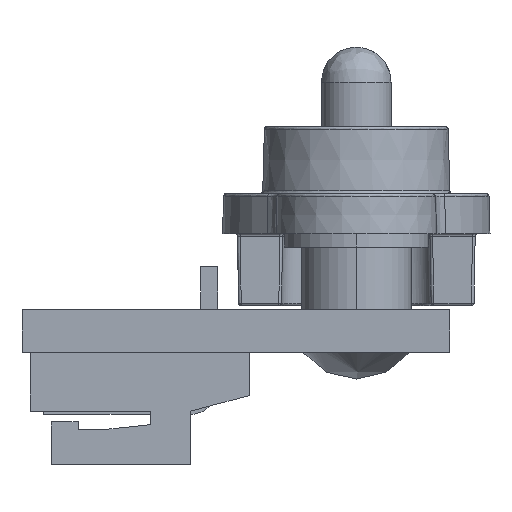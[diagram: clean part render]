
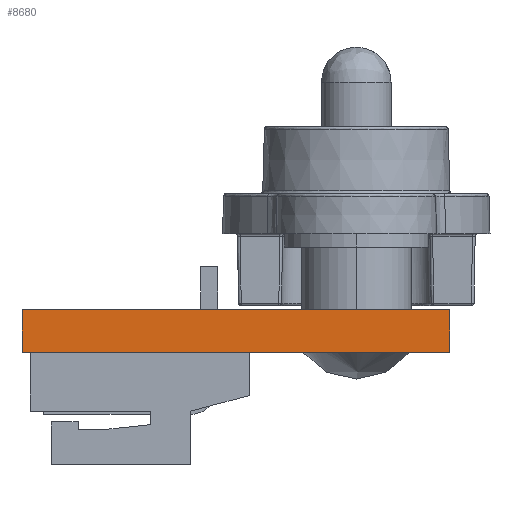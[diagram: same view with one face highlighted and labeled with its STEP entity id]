
A CAD part, left-side view. The second image highlights one B-rep face of the part: STEP entity #8680.
In plain terms, the highlighted planar face has unit normal (-1, 0, 0) as drawn and (1, 0, 0) by its records, which use the part's own axes.
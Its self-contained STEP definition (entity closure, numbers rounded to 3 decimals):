
#439 = ORIENTED_EDGE ( 'NONE', *, *, #18611, .T. ) ;
#494 = ORIENTED_EDGE ( 'NONE', *, *, #33099, .T. ) ;
#776 = DIRECTION ( 'NONE',  ( 0., 1., 0. ) ) ;
#1552 = CARTESIAN_POINT ( 'NONE',  ( 17.5, 1.6, -8. ) ) ;
#1823 = LINE ( 'NONE', #2003, #29803 ) ;
#2003 = CARTESIAN_POINT ( 'NONE',  ( 17.5, 1.6, 8. ) ) ;
#2535 = EDGE_LOOP ( 'NONE', ( #439, #13975, #494, #22019 ) ) ;
#3059 = VECTOR ( 'NONE', #776, 1000. ) ;
#3259 = DIRECTION ( 'NONE',  ( 0., -1., 0. ) ) ;
#5085 = EDGE_CURVE ( 'NONE', #8755, #18400, #1823, .T. ) ;
#5289 = DIRECTION ( 'NONE',  ( 0., 0., 1. ) ) ;
#5595 = VECTOR ( 'NONE', #3259, 1000. ) ;
#8680 = ADVANCED_FACE ( 'NONE', ( #12740 ), #18788, .F. ) ;
#8755 = VERTEX_POINT ( 'NONE', #10850 ) ;
#9130 = EDGE_CURVE ( 'NONE', #22948, #35813, #9467, .T. ) ;
#9211 = VECTOR ( 'NONE', #29866, 1000. ) ;
#9325 = CARTESIAN_POINT ( 'NONE',  ( 17.5, 1.6, -8. ) ) ;
#9467 = LINE ( 'NONE', #15948, #9211 ) ;
#10850 = CARTESIAN_POINT ( 'NONE',  ( 17.5, 1.6, 8. ) ) ;
#11487 = CARTESIAN_POINT ( 'NONE',  ( 17.5, 1.6, 8. ) ) ;
#12740 = FACE_OUTER_BOUND ( 'NONE', #2535, .T. ) ;
#13975 = ORIENTED_EDGE ( 'NONE', *, *, #5085, .F. ) ;
#15948 = CARTESIAN_POINT ( 'NONE',  ( 17.5, 0., 0. ) ) ;
#16400 = CARTESIAN_POINT ( 'NONE',  ( 17.5, 1.6, 8. ) ) ;
#18400 = VERTEX_POINT ( 'NONE', #1552 ) ;
#18611 = EDGE_CURVE ( 'NONE', #22948, #18400, #20104, .T. ) ;
#18788 = PLANE ( 'NONE',  #28127 ) ;
#20104 = LINE ( 'NONE', #9325, #3059 ) ;
#22019 = ORIENTED_EDGE ( 'NONE', *, *, #9130, .F. ) ;
#22948 = VERTEX_POINT ( 'NONE', #32686 ) ;
#25107 = CARTESIAN_POINT ( 'NONE',  ( 17.5, 0., 8. ) ) ;
#28127 = AXIS2_PLACEMENT_3D ( 'NONE', #16400, #30692, #5289 ) ;
#29803 = VECTOR ( 'NONE', #32661, 1000. ) ;
#29866 = DIRECTION ( 'NONE',  ( 0., 0., 1. ) ) ;
#30692 = DIRECTION ( 'NONE',  ( -1., 0., 0. ) ) ;
#31118 = LINE ( 'NONE', #11487, #5595 ) ;
#32661 = DIRECTION ( 'NONE',  ( 0., 0., -1. ) ) ;
#32686 = CARTESIAN_POINT ( 'NONE',  ( 17.5, 0., -8. ) ) ;
#33099 = EDGE_CURVE ( 'NONE', #8755, #35813, #31118, .T. ) ;
#35813 = VERTEX_POINT ( 'NONE', #25107 ) ;
